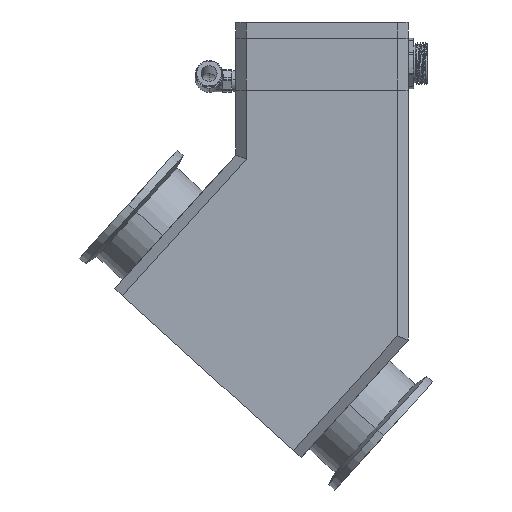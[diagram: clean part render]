
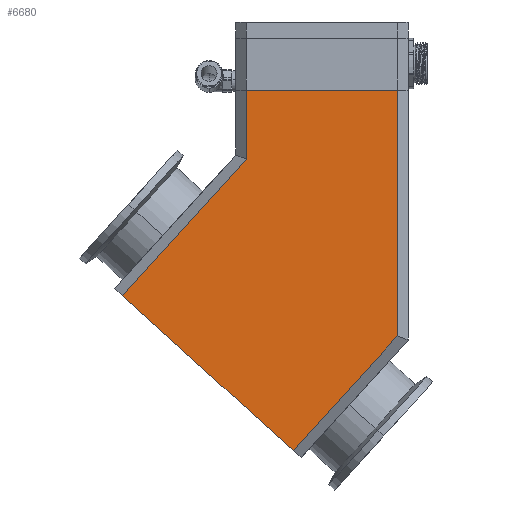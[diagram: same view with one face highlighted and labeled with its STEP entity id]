
A CAD part, front view. The second image highlights one B-rep face of the part: STEP entity #6680.
In plain terms, the highlighted planar face has unit normal (0, -1, 0).
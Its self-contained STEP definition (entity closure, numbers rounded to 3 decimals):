
#471 = EDGE_CURVE ( 'NONE', #1228, #5458, #8240, .T. ) ;
#527 = LINE ( 'NONE', #10024, #10518 ) ;
#604 = DIRECTION ( 'NONE',  ( 0., 0., -1. ) ) ;
#1113 = ORIENTED_EDGE ( 'NONE', *, *, #471, .T. ) ;
#1228 = VERTEX_POINT ( 'NONE', #6166 ) ;
#1267 = ORIENTED_EDGE ( 'NONE', *, *, #4938, .F. ) ;
#1272 = VECTOR ( 'NONE', #12323, 1000. ) ;
#1456 = EDGE_CURVE ( 'NONE', #8421, #8548, #10798, .T. ) ;
#1471 = CARTESIAN_POINT ( 'NONE',  ( -10.768, -32.5, -33.502 ) ) ;
#1594 = VECTOR ( 'NONE', #604, 1000. ) ;
#1617 = ORIENTED_EDGE ( 'NONE', *, *, #11258, .T. ) ;
#1651 = DIRECTION ( 'NONE',  ( 1., 0., 0. ) ) ;
#1702 = DIRECTION ( 'NONE',  ( 0., 1., 0. ) ) ;
#1948 = EDGE_CURVE ( 'NONE', #3764, #10212, #5667, .T. ) ;
#3764 = VERTEX_POINT ( 'NONE', #1471 ) ;
#4550 = CARTESIAN_POINT ( 'NONE',  ( 28.5, -32.5, 9.801 ) ) ;
#4689 = CARTESIAN_POINT ( 'NONE',  ( 32.224, -32.5, 13.908 ) ) ;
#4764 = EDGE_CURVE ( 'NONE', #3764, #8421, #8754, .T. ) ;
#4779 = ORIENTED_EDGE ( 'NONE', *, *, #1456, .T. ) ;
#4938 = EDGE_CURVE ( 'NONE', #1228, #8548, #9658, .T. ) ;
#5458 = VERTEX_POINT ( 'NONE', #5613 ) ;
#5593 = VECTOR ( 'NONE', #1651, 1000. ) ;
#5613 = CARTESIAN_POINT ( 'NONE',  ( -28.5, -32.5, 76.456 ) ) ;
#5667 = LINE ( 'NONE', #10900, #9562 ) ;
#6132 = DIRECTION ( 'NONE',  ( -0.741, 0., 0.672 ) ) ;
#6166 = CARTESIAN_POINT ( 'NONE',  ( -28.5, -32.5, 102.5 ) ) ;
#6366 = CARTESIAN_POINT ( 'NONE',  ( -75.216, -32.5, 24.94 ) ) ;
#6680 = ADVANCED_FACE ( 'NONE', ( #11013 ), #7478, .F. ) ;
#7478 = PLANE ( 'NONE',  #11096 ) ;
#7587 = CARTESIAN_POINT ( 'NONE',  ( 0., -32.5, 43.129 ) ) ;
#7825 = CARTESIAN_POINT ( 'NONE',  ( 28.5, -32.5, 102.5 ) ) ;
#8149 = VECTOR ( 'NONE', #11407, 1000. ) ;
#8240 = LINE ( 'NONE', #12210, #1594 ) ;
#8421 = VERTEX_POINT ( 'NONE', #4550 ) ;
#8548 = VERTEX_POINT ( 'NONE', #7825 ) ;
#8754 = LINE ( 'NONE', #4689, #8149 ) ;
#9123 = DIRECTION ( 'NONE',  ( -0.672, 0., -0.741 ) ) ;
#9477 = EDGE_LOOP ( 'NONE', ( #1113, #1617, #10804, #11808, #4779, #1267 ) ) ;
#9517 = CARTESIAN_POINT ( 'NONE',  ( 28.5, -32.5, 43.129 ) ) ;
#9562 = VECTOR ( 'NONE', #6132, 1000. ) ;
#9658 = LINE ( 'NONE', #10933, #5593 ) ;
#10024 = CARTESIAN_POINT ( 'NONE',  ( -32.224, -32.5, 72.35 ) ) ;
#10212 = VERTEX_POINT ( 'NONE', #6366 ) ;
#10518 = VECTOR ( 'NONE', #9123, 1000. ) ;
#10798 = LINE ( 'NONE', #9517, #1272 ) ;
#10804 = ORIENTED_EDGE ( 'NONE', *, *, #1948, .F. ) ;
#10900 = CARTESIAN_POINT ( 'NONE',  ( -7.805, -32.5, -36.189 ) ) ;
#10933 = CARTESIAN_POINT ( 'NONE',  ( 32.5, -32.5, 102.5 ) ) ;
#11013 = FACE_OUTER_BOUND ( 'NONE', #9477, .T. ) ;
#11096 = AXIS2_PLACEMENT_3D ( 'NONE', #7587, #1702, #11460 ) ;
#11258 = EDGE_CURVE ( 'NONE', #5458, #10212, #527, .T. ) ;
#11407 = DIRECTION ( 'NONE',  ( 0.672, 0., 0.741 ) ) ;
#11460 = DIRECTION ( 'NONE',  ( -0.741, 0., 0.672 ) ) ;
#11808 = ORIENTED_EDGE ( 'NONE', *, *, #4764, .T. ) ;
#12210 = CARTESIAN_POINT ( 'NONE',  ( -28.5, -32.5, 43.129 ) ) ;
#12323 = DIRECTION ( 'NONE',  ( 0., 0., 1. ) ) ;
